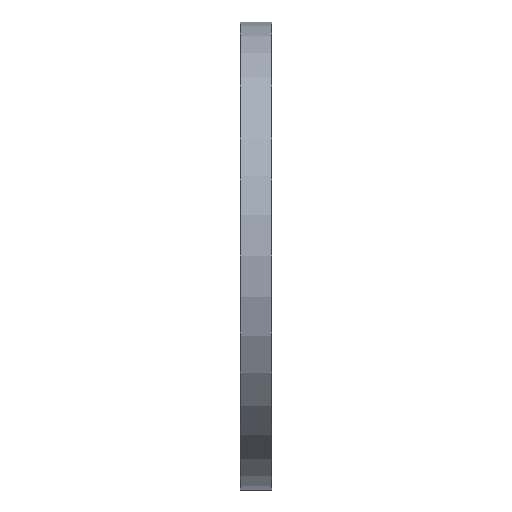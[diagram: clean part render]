
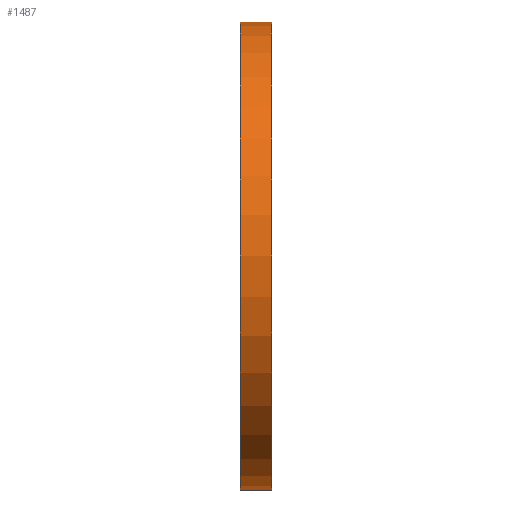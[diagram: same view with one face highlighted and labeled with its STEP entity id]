
A CAD part, left-side view. The second image highlights one B-rep face of the part: STEP entity #1487.
In plain terms, the highlighted cylindrical face has radius 7.5 mm (diameter 15 mm), a partial arc.
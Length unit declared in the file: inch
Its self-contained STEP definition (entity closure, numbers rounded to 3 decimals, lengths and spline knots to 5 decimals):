
#60 = CARTESIAN_POINT ( 'NONE',  ( 0., 0.04, 0. ) ) ;
#89 = DIRECTION ( 'NONE',  ( 0., -1., 0. ) ) ;
#152 = CARTESIAN_POINT ( 'NONE',  ( 0., 0., 0.29528 ) ) ;
#183 = CARTESIAN_POINT ( 'NONE',  ( 0., 0.04, -0.29528 ) ) ;
#205 = ORIENTED_EDGE ( 'NONE', *, *, #783, .T. ) ;
#258 = DIRECTION ( 'NONE',  ( 0., -1., 0. ) ) ;
#259 = AXIS2_PLACEMENT_3D ( 'NONE', #262, #1819, #795 ) ;
#262 = CARTESIAN_POINT ( 'NONE',  ( 0., 0., 0. ) ) ;
#269 = AXIS2_PLACEMENT_3D ( 'NONE', #2170, #1564, #411 ) ;
#327 = EDGE_CURVE ( 'NONE', #1324, #523, #1350, .T. ) ;
#411 = DIRECTION ( 'NONE',  ( 0., 0., 1. ) ) ;
#495 = LINE ( 'NONE', #1280, #1979 ) ;
#523 = VERTEX_POINT ( 'NONE', #152 ) ;
#610 = DIRECTION ( 'NONE',  ( 0., 0., -1. ) ) ;
#645 = FACE_OUTER_BOUND ( 'NONE', #1837, .T. ) ;
#783 = EDGE_CURVE ( 'NONE', #2127, #1324, #495, .T. ) ;
#795 = DIRECTION ( 'NONE',  ( 0., 0., 1. ) ) ;
#1047 = CIRCLE ( 'NONE', #269, 0.29528 ) ;
#1051 = VECTOR ( 'NONE', #89, 39.37008 ) ;
#1102 = AXIS2_PLACEMENT_3D ( 'NONE', #60, #1601, #610 ) ;
#1166 = ORIENTED_EDGE ( 'NONE', *, *, #327, .T. ) ;
#1280 = CARTESIAN_POINT ( 'NONE',  ( 0., 0.04, -0.29528 ) ) ;
#1313 = EDGE_CURVE ( 'NONE', #2127, #2167, #1047, .T. ) ;
#1324 = VERTEX_POINT ( 'NONE', #1948 ) ;
#1350 = CIRCLE ( 'NONE', #259, 0.29528 ) ;
#1393 = ORIENTED_EDGE ( 'NONE', *, *, #1419, .F. ) ;
#1419 = EDGE_CURVE ( 'NONE', #2167, #523, #1671, .T. ) ;
#1487 = ADVANCED_FACE ( 'NONE', ( #645 ), #1765, .T. ) ;
#1564 = DIRECTION ( 'NONE',  ( 0., 1., 0. ) ) ;
#1601 = DIRECTION ( 'NONE',  ( 0., -1., 0. ) ) ;
#1627 = CARTESIAN_POINT ( 'NONE',  ( 0., 0.04, 0.29528 ) ) ;
#1671 = LINE ( 'NONE', #1836, #1051 ) ;
#1716 = ORIENTED_EDGE ( 'NONE', *, *, #1313, .F. ) ;
#1765 = CYLINDRICAL_SURFACE ( 'NONE', #1102, 0.29528 ) ;
#1819 = DIRECTION ( 'NONE',  ( 0., 1., 0. ) ) ;
#1836 = CARTESIAN_POINT ( 'NONE',  ( 0., 0.04, 0.29528 ) ) ;
#1837 = EDGE_LOOP ( 'NONE', ( #1393, #1716, #205, #1166 ) ) ;
#1948 = CARTESIAN_POINT ( 'NONE',  ( 0., 0., -0.29528 ) ) ;
#1979 = VECTOR ( 'NONE', #258, 39.37008 ) ;
#2127 = VERTEX_POINT ( 'NONE', #183 ) ;
#2167 = VERTEX_POINT ( 'NONE', #1627 ) ;
#2170 = CARTESIAN_POINT ( 'NONE',  ( 0., 0.04, 0. ) ) ;
